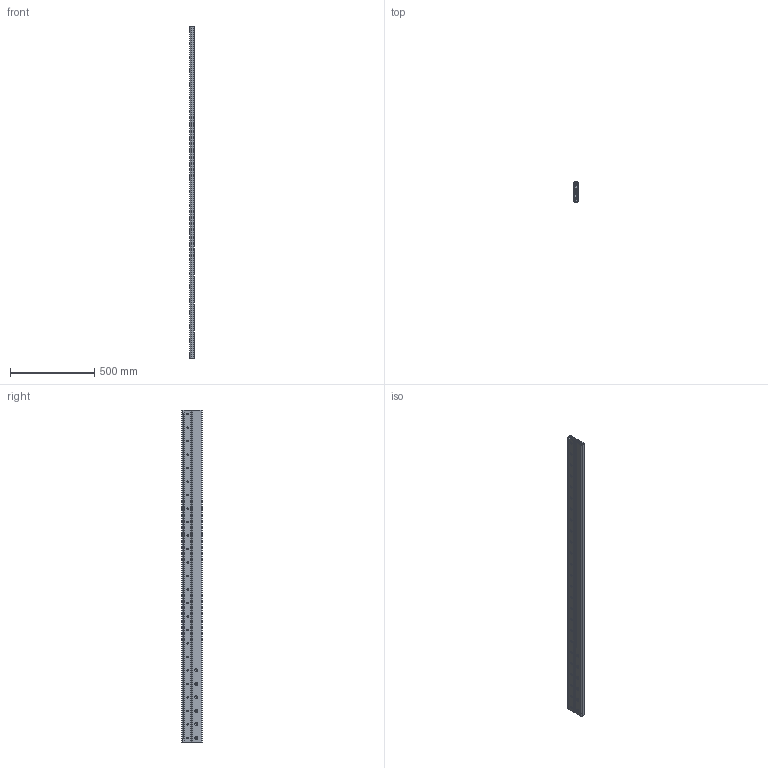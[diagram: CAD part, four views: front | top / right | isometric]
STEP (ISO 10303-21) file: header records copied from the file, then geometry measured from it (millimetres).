
FILE_DESCRIPTION(('STEP AP214'),'1');
FILE_NAME('rail_dss43-1970_00.stp','2017-04-17T03:59:59',('TraceParts'),('TraceParts S.A.'),'Spatial InterOp 3D',' ',' ');
FILE_SCHEMA(('automotive_design'));
Length unit declared in the file: millimetre
Products named in the file (3): rail_dss43-1970_00_1; rail_dss43-1970_00_2; rail_dss43-1970_00_3
Bounding box: 28 x 120 x 1970 mm (x, y, z)
Volume: 3501888.7 mm3; surface area: 1405037.2 mm2
Topology: 3 solids, 3 shells, 414 faces, 1094 edges, 696 vertices
Faces by surface type: cylinder 176, plane 138, cone 100
Entity records: 13159 total; most frequent: DIRECTION 2396, CARTESIAN_POINT 2207, ORIENTED_EDGE 2188, EDGE_CURVE 1094, AXIS2_PLACEMENT_3D 885, VERTEX_POINT 696, LINE 626, VECTOR 626
